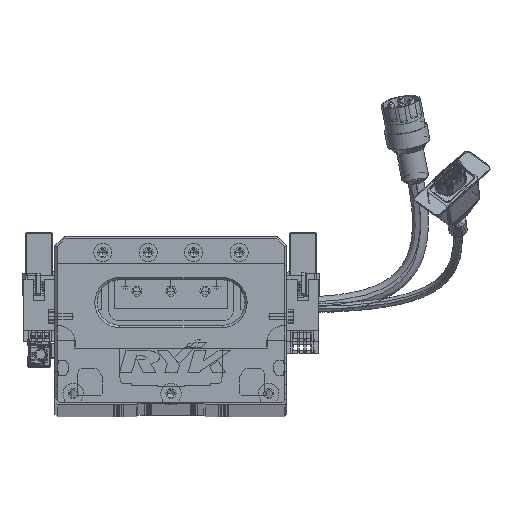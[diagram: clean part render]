
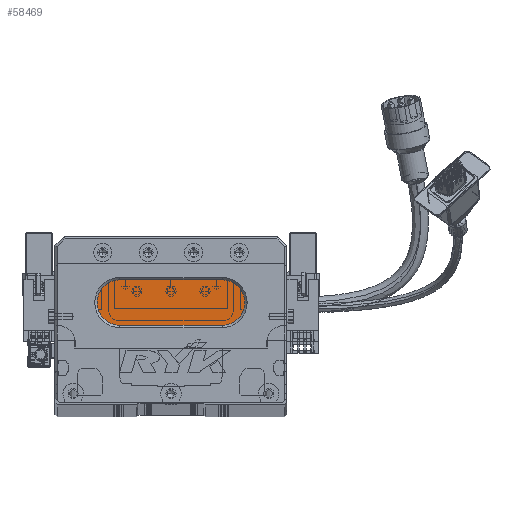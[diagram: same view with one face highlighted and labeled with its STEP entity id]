
A CAD part, top view. The second image highlights one B-rep face of the part: STEP entity #58469.
In plain terms, the highlighted planar face has unit normal (0, 0, 1) as drawn and (0, 0, -1) by its records, which use the part's own axes.
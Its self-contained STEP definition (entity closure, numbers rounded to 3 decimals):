
#771 = VERTEX_POINT ( 'NONE', #16074 ) ;
#859 = ORIENTED_EDGE ( 'NONE', *, *, #75012, .T. ) ;
#2241 = CARTESIAN_POINT ( 'NONE',  ( 73.5, 34., 13. ) ) ;
#2586 = AXIS2_PLACEMENT_3D ( 'NONE', #10629, #31509, #59675 ) ;
#3577 = EDGE_CURVE ( 'NONE', #771, #52550, #50401, .T. ) ;
#5668 = DIRECTION ( 'NONE',  ( -1., 0., 0. ) ) ;
#6256 = DIRECTION ( 'NONE',  ( 0., 0., -1. ) ) ;
#10447 = DIRECTION ( 'NONE',  ( 0., 0., -1. ) ) ;
#10629 = CARTESIAN_POINT ( 'NONE',  ( 73.5, 44., 13. ) ) ;
#11365 = CARTESIAN_POINT ( 'NONE',  ( 28.5, 44., 13. ) ) ;
#11477 = CARTESIAN_POINT ( 'NONE',  ( 73.5, 34., 13. ) ) ;
#12024 = CARTESIAN_POINT ( 'NONE',  ( 73.5, 54., 13. ) ) ;
#13754 = ORIENTED_EDGE ( 'NONE', *, *, #3577, .T. ) ;
#14182 = AXIS2_PLACEMENT_3D ( 'NONE', #60451, #53684, #32898 ) ;
#15524 = EDGE_LOOP ( 'NONE', ( #13754, #65715, #45477, #859, #18242 ) ) ;
#16074 = CARTESIAN_POINT ( 'NONE',  ( 73.5, 54., 13. ) ) ;
#18242 = ORIENTED_EDGE ( 'NONE', *, *, #38258, .T. ) ;
#18907 = CARTESIAN_POINT ( 'NONE',  ( 28.5, 34., 13. ) ) ;
#19635 = CARTESIAN_POINT ( 'NONE',  ( 18.5, 44., 13. ) ) ;
#22022 = EDGE_CURVE ( 'NONE', #84000, #89339, #84547, .T. ) ;
#29448 = VECTOR ( 'NONE', #88259, 1000. ) ;
#29932 = AXIS2_PLACEMENT_3D ( 'NONE', #11365, #10447, #53345 ) ;
#31509 = DIRECTION ( 'NONE',  ( 0., 0., -1. ) ) ;
#32898 = DIRECTION ( 'NONE',  ( -1., 0., 0. ) ) ;
#36024 = LINE ( 'NONE', #12024, #29448 ) ;
#38258 = EDGE_CURVE ( 'NONE', #41498, #771, #36024, .T. ) ;
#41498 = VERTEX_POINT ( 'NONE', #62143 ) ;
#45477 = ORIENTED_EDGE ( 'NONE', *, *, #22022, .T. ) ;
#46444 = PLANE ( 'NONE',  #2586 ) ;
#50401 = CIRCLE ( 'NONE', #82383, 10. ) ;
#50577 = DIRECTION ( 'NONE',  ( -1., 0., 0. ) ) ;
#52550 = VERTEX_POINT ( 'NONE', #11477 ) ;
#53345 = DIRECTION ( 'NONE',  ( -1., 0., 0. ) ) ;
#53684 = DIRECTION ( 'NONE',  ( 0., 0., -1. ) ) ;
#56286 = LINE ( 'NONE', #2241, #84728 ) ;
#58469 = ADVANCED_FACE ( 'NONE', ( #84503 ), #46444, .T. ) ;
#59675 = DIRECTION ( 'NONE',  ( -1., 0., 0. ) ) ;
#60451 = CARTESIAN_POINT ( 'NONE',  ( 28.5, 44., 13. ) ) ;
#61108 = CARTESIAN_POINT ( 'NONE',  ( 73.5, 44., 13. ) ) ;
#61518 = EDGE_CURVE ( 'NONE', #52550, #84000, #56286, .T. ) ;
#62143 = CARTESIAN_POINT ( 'NONE',  ( 28.5, 54., 13. ) ) ;
#65715 = ORIENTED_EDGE ( 'NONE', *, *, #61518, .T. ) ;
#75012 = EDGE_CURVE ( 'NONE', #89339, #41498, #80857, .T. ) ;
#80857 = CIRCLE ( 'NONE', #14182, 10. ) ;
#82383 = AXIS2_PLACEMENT_3D ( 'NONE', #61108, #6256, #5668 ) ;
#84000 = VERTEX_POINT ( 'NONE', #18907 ) ;
#84503 = FACE_OUTER_BOUND ( 'NONE', #15524, .T. ) ;
#84547 = CIRCLE ( 'NONE', #29932, 10. ) ;
#84728 = VECTOR ( 'NONE', #50577, 1000. ) ;
#88259 = DIRECTION ( 'NONE',  ( 1., 0., 0. ) ) ;
#89339 = VERTEX_POINT ( 'NONE', #19635 ) ;
